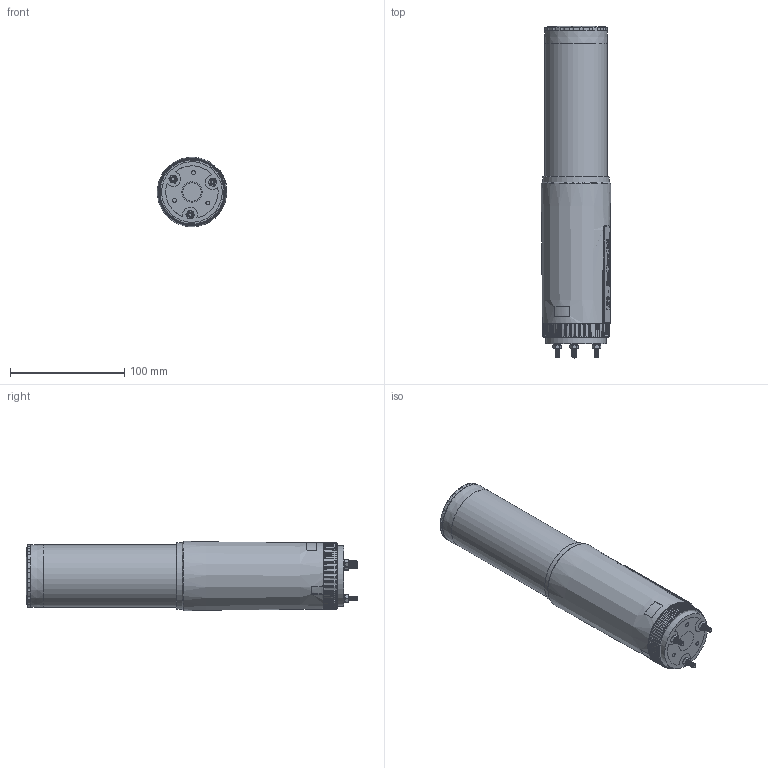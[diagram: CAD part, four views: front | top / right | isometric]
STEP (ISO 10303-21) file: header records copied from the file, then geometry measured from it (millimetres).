
FILE_DESCRIPTION (( 'STEP AP203' ), '1' );
FILE_NAME ('MC60.STEP', '2025-06-13T17:37:10', ( '' ), ( '' ), 'SwSTEP 2.0', 'SolidWorks 2024', '' );
FILE_SCHEMA (( 'CONFIG_CONTROL_DESIGN' ));
Length unit declared in the file: millimetre
Products named in the file (18): M4C-016_-_27_1; M4C-04_-_70_1; M4C-03_-_18_1; M4C-11_-_2_1; M4C-05_-_6_1; M4C-07_-6_1_1; M4C-10_-_2_1; M4C-020_26_1; M4C_ASM_ASM_1_ASM; MC60; M4C-15_-_4_1; M4C-14_-_2_1; M4C-LED; M4C-01_-_139_1; M4C-18_3_1; M4C_ASM_1_ASM_1_ASM; MM4C-DZJT_20_1; M4C-08_-_100_1
Assembly tree (22 placements, depth 4):
  MC60
    M4C_ASM_ASM_1_ASM
      M4C_ASM_1_ASM_1_ASM
        M4C-01_-_139_1
        M4C-020_26_1
        M4C-03_-_18_1
        M4C-04_-_70_1
        M4C-05_-_6_1
        M4C-016_-_27_1
        M4C-07_-6_1_1
        M4C-08_-_100_1
        M4C-10_-_2_1
        M4C-11_-_2_1
        M4C-14_-_2_1  x2
        M4C-15_-_4_1  x3
        M4C-18_3_1  x3
        MM4C-DZJT_20_1
      M4C-LED
Bounding box: 60.92 x 291.18 x 60.92 mm (x, y, z)
Volume: 783239.3 mm3; surface area: 175923.3 mm2
Topology: 21 solids, 21 shells, 1039 faces, 3204 edges, 2218 vertices
Faces by surface type: plane 364, bspline 239, cone 237, cylinder 195, torus 4
Full cylindrical faces by diameter (mm): 3.5 x3, 3.9 x2, 5 x1, 6.5 x2, 8 x1, 8.5 x1, 10 x1, 16 x1, 40 x1, 46 x1, 50.7 x1, 51 x1, 53.14 x1, 55 x1, 55.3 x2, 56 x1
Entity records: 67256 total; most frequent: CARTESIAN_POINT 43854, ORIENTED_EDGE 5064, DIRECTION 3558, EDGE_CURVE 2532, VERTEX_POINT 1762, AXIS2_PLACEMENT_3D 1352, B_SPLINE_CURVE_WITH_KNOTS 1028, EDGE_LOOP 984
